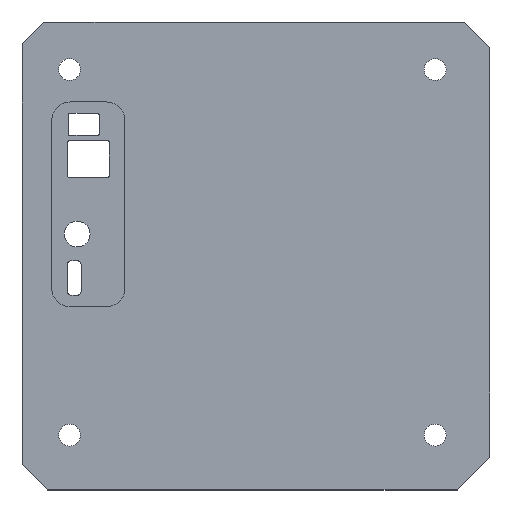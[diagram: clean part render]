
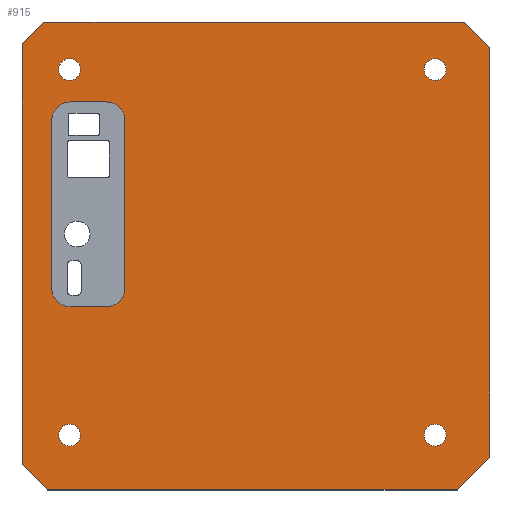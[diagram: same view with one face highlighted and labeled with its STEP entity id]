
A CAD part, top view. The second image highlights one B-rep face of the part: STEP entity #915.
In plain terms, the highlighted planar face has unit normal (0, 0, 1).
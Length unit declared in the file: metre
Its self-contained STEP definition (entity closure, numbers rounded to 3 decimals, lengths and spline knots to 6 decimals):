
#60=LINE('',#1446,#148);
#61=LINE('',#1451,#149);
#62=LINE('',#1455,#150);
#63=LINE('',#1459,#151);
#64=LINE('',#1470,#152);
#65=LINE('',#1473,#153);
#66=LINE('',#1475,#154);
#67=LINE('',#1477,#155);
#68=LINE('',#1479,#156);
#69=LINE('',#1481,#157);
#70=LINE('',#1483,#158);
#71=LINE('',#1485,#159);
#148=VECTOR('',#1155,1.);
#149=VECTOR('',#1158,1.);
#150=VECTOR('',#1161,1.);
#151=VECTOR('',#1164,1.);
#152=VECTOR('',#1175,1.);
#153=VECTOR('',#1176,1.);
#154=VECTOR('',#1177,1.);
#155=VECTOR('',#1178,1.);
#156=VECTOR('',#1179,1.);
#157=VECTOR('',#1180,1.);
#158=VECTOR('',#1181,1.);
#159=VECTOR('',#1182,1.);
#200=PLANE('',#986);
#281=ORIENTED_EDGE('',*,*,#533,.F.);
#282=ORIENTED_EDGE('',*,*,#534,.F.);
#283=ORIENTED_EDGE('',*,*,#535,.T.);
#284=ORIENTED_EDGE('',*,*,#536,.F.);
#285=ORIENTED_EDGE('',*,*,#537,.T.);
#286=ORIENTED_EDGE('',*,*,#538,.F.);
#287=ORIENTED_EDGE('',*,*,#539,.F.);
#288=ORIENTED_EDGE('',*,*,#540,.F.);
#289=ORIENTED_EDGE('',*,*,#541,.F.);
#290=ORIENTED_EDGE('',*,*,#542,.F.);
#291=ORIENTED_EDGE('',*,*,#543,.F.);
#292=ORIENTED_EDGE('',*,*,#544,.F.);
#293=ORIENTED_EDGE('',*,*,#545,.T.);
#294=ORIENTED_EDGE('',*,*,#546,.T.);
#295=ORIENTED_EDGE('',*,*,#547,.F.);
#296=ORIENTED_EDGE('',*,*,#548,.T.);
#297=ORIENTED_EDGE('',*,*,#549,.F.);
#298=ORIENTED_EDGE('',*,*,#550,.T.);
#299=ORIENTED_EDGE('',*,*,#551,.T.);
#300=ORIENTED_EDGE('',*,*,#552,.T.);
#533=EDGE_CURVE('',#655,#656,#60,.T.);
#534=EDGE_CURVE('',#657,#655,#705,.T.);
#535=EDGE_CURVE('',#657,#658,#61,.T.);
#536=EDGE_CURVE('',#659,#658,#706,.T.);
#537=EDGE_CURVE('',#659,#660,#62,.T.);
#538=EDGE_CURVE('',#661,#660,#707,.T.);
#539=EDGE_CURVE('',#662,#661,#63,.T.);
#540=EDGE_CURVE('',#656,#662,#708,.T.);
#541=EDGE_CURVE('',#663,#663,#709,.T.);
#542=EDGE_CURVE('',#664,#664,#710,.T.);
#543=EDGE_CURVE('',#665,#665,#711,.T.);
#544=EDGE_CURVE('',#666,#666,#712,.T.);
#545=EDGE_CURVE('',#667,#668,#64,.T.);
#546=EDGE_CURVE('',#668,#669,#65,.T.);
#547=EDGE_CURVE('',#670,#669,#66,.T.);
#548=EDGE_CURVE('',#670,#671,#67,.F.);
#549=EDGE_CURVE('',#672,#671,#68,.T.);
#550=EDGE_CURVE('',#672,#673,#69,.T.);
#551=EDGE_CURVE('',#673,#674,#70,.T.);
#552=EDGE_CURVE('',#674,#667,#71,.F.);
#655=VERTEX_POINT('',#1447);
#656=VERTEX_POINT('',#1448);
#657=VERTEX_POINT('',#1450);
#658=VERTEX_POINT('',#1452);
#659=VERTEX_POINT('',#1454);
#660=VERTEX_POINT('',#1456);
#661=VERTEX_POINT('',#1458);
#662=VERTEX_POINT('',#1460);
#663=VERTEX_POINT('',#1463);
#664=VERTEX_POINT('',#1465);
#665=VERTEX_POINT('',#1467);
#666=VERTEX_POINT('',#1469);
#667=VERTEX_POINT('',#1471);
#668=VERTEX_POINT('',#1472);
#669=VERTEX_POINT('',#1474);
#670=VERTEX_POINT('',#1476);
#671=VERTEX_POINT('',#1478);
#672=VERTEX_POINT('',#1480);
#673=VERTEX_POINT('',#1482);
#674=VERTEX_POINT('',#1484);
#705=CIRCLE('',#987,0.005);
#706=CIRCLE('',#988,0.005);
#707=CIRCLE('',#989,0.005);
#708=CIRCLE('',#990,0.005);
#709=CIRCLE('',#991,0.003);
#710=CIRCLE('',#992,0.003);
#711=CIRCLE('',#993,0.003);
#712=CIRCLE('',#994,0.003);
#755=EDGE_LOOP('',(#281,#282,#283,#284,#285,#286,#287,#288));
#756=EDGE_LOOP('',(#289));
#757=EDGE_LOOP('',(#290));
#758=EDGE_LOOP('',(#291));
#759=EDGE_LOOP('',(#292));
#760=EDGE_LOOP('',(#293,#294,#295,#296,#297,#298,#299,#300));
#825=FACE_BOUND('',#755,.T.);
#826=FACE_BOUND('',#756,.T.);
#827=FACE_BOUND('',#757,.T.);
#828=FACE_BOUND('',#758,.T.);
#829=FACE_BOUND('',#759,.T.);
#830=FACE_BOUND('',#760,.T.);
#915=ADVANCED_FACE('',(#825,#826,#827,#828,#829,#830),#200,.T.);
#986=AXIS2_PLACEMENT_3D('',#1445,#1153,#1154);
#987=AXIS2_PLACEMENT_3D('',#1449,#1156,#1157);
#988=AXIS2_PLACEMENT_3D('',#1453,#1159,#1160);
#989=AXIS2_PLACEMENT_3D('',#1457,#1162,#1163);
#990=AXIS2_PLACEMENT_3D('',#1461,#1165,#1166);
#991=AXIS2_PLACEMENT_3D('',#1462,#1167,#1168);
#992=AXIS2_PLACEMENT_3D('',#1464,#1169,#1170);
#993=AXIS2_PLACEMENT_3D('',#1466,#1171,#1172);
#994=AXIS2_PLACEMENT_3D('',#1468,#1173,#1174);
#1153=DIRECTION('',(0.,0.,1.));
#1154=DIRECTION('',(1.,0.,0.));
#1155=DIRECTION('',(-1.,0.,0.));
#1156=DIRECTION('',(0.,0.,1.));
#1157=DIRECTION('',(1.,0.,0.));
#1158=DIRECTION('',(0.,-1.,0.));
#1159=DIRECTION('',(0.,0.,1.));
#1160=DIRECTION('',(1.,0.,0.));
#1161=DIRECTION('',(-1.,0.,0.));
#1162=DIRECTION('',(0.,0.,1.));
#1163=DIRECTION('',(1.,0.,0.));
#1164=DIRECTION('',(0.,-1.,0.));
#1165=DIRECTION('',(0.,0.,1.));
#1166=DIRECTION('',(1.,0.,0.));
#1167=DIRECTION('',(0.,0.,1.));
#1168=DIRECTION('',(1.,0.,0.));
#1169=DIRECTION('',(0.,0.,1.));
#1170=DIRECTION('',(1.,0.,0.));
#1171=DIRECTION('',(0.,0.,1.));
#1172=DIRECTION('',(1.,0.,0.));
#1173=DIRECTION('',(0.,0.,1.));
#1174=DIRECTION('',(1.,0.,0.));
#1175=DIRECTION('',(-1.,0.,0.));
#1176=DIRECTION('',(-0.707,-0.707,0.));
#1177=DIRECTION('',(0.,1.,0.));
#1178=DIRECTION('',(-0.707,0.707,0.));
#1179=DIRECTION('',(-1.,0.,0.));
#1180=DIRECTION('',(0.707,0.707,0.));
#1181=DIRECTION('',(0.,1.,0.));
#1182=DIRECTION('',(0.707,-0.707,0.));
#1445=CARTESIAN_POINT('',(0.,0.,0.003));
#1446=CARTESIAN_POINT('',(-0.04585,0.042125,0.003));
#1447=CARTESIAN_POINT('',(-0.04085,0.042125,0.003));
#1448=CARTESIAN_POINT('',(-0.05085,0.042125,0.003));
#1449=CARTESIAN_POINT('',(-0.04085,0.037125,0.003));
#1450=CARTESIAN_POINT('',(-0.03585,0.037125,0.003));
#1451=CARTESIAN_POINT('',(-0.03585,0.014125,0.003));
#1452=CARTESIAN_POINT('',(-0.03585,-0.008875,0.003));
#1453=CARTESIAN_POINT('',(-0.04085,-0.008875,0.003));
#1454=CARTESIAN_POINT('',(-0.04085,-0.013875,0.003));
#1455=CARTESIAN_POINT('',(-0.04585,-0.013875,0.003));
#1456=CARTESIAN_POINT('',(-0.05085,-0.013875,0.003));
#1457=CARTESIAN_POINT('',(-0.05085,-0.008875,0.003));
#1458=CARTESIAN_POINT('',(-0.05585,-0.008875,0.003));
#1459=CARTESIAN_POINT('',(-0.05585,0.014125,0.003));
#1460=CARTESIAN_POINT('',(-0.05585,0.037125,0.003));
#1461=CARTESIAN_POINT('',(-0.05085,0.037125,0.003));
#1462=CARTESIAN_POINT('',(-0.051,-0.049,0.003));
#1463=CARTESIAN_POINT('',(-0.048,-0.049,0.003));
#1464=CARTESIAN_POINT('',(0.049,0.051,0.003));
#1465=CARTESIAN_POINT('',(0.052,0.051,0.003));
#1466=CARTESIAN_POINT('',(-0.051,0.051,0.003));
#1467=CARTESIAN_POINT('',(-0.048,0.051,0.003));
#1468=CARTESIAN_POINT('',(0.049,-0.049,0.003));
#1469=CARTESIAN_POINT('',(0.052,-0.049,0.003));
#1470=CARTESIAN_POINT('',(0.,0.064,0.003));
#1471=CARTESIAN_POINT('',(0.057,0.064,0.003));
#1472=CARTESIAN_POINT('',(-0.058,0.064,0.003));
#1473=CARTESIAN_POINT('',(-0.061,0.061,0.003));
#1474=CARTESIAN_POINT('',(-0.064,0.058,0.003));
#1475=CARTESIAN_POINT('',(-0.064,0.,0.003));
#1476=CARTESIAN_POINT('',(-0.064,-0.057,0.003));
#1477=CARTESIAN_POINT('',(-0.0605,-0.0605,0.003));
#1478=CARTESIAN_POINT('',(-0.057,-0.064,0.003));
#1479=CARTESIAN_POINT('',(0.,-0.064,0.003));
#1480=CARTESIAN_POINT('',(0.055,-0.064,0.003));
#1481=CARTESIAN_POINT('',(0.0595,-0.0595,0.003));
#1482=CARTESIAN_POINT('',(0.064,-0.055,0.003));
#1483=CARTESIAN_POINT('',(0.064,0.,0.003));
#1484=CARTESIAN_POINT('',(0.064,0.057,0.003));
#1485=CARTESIAN_POINT('',(0.0605,0.0605,0.003));
